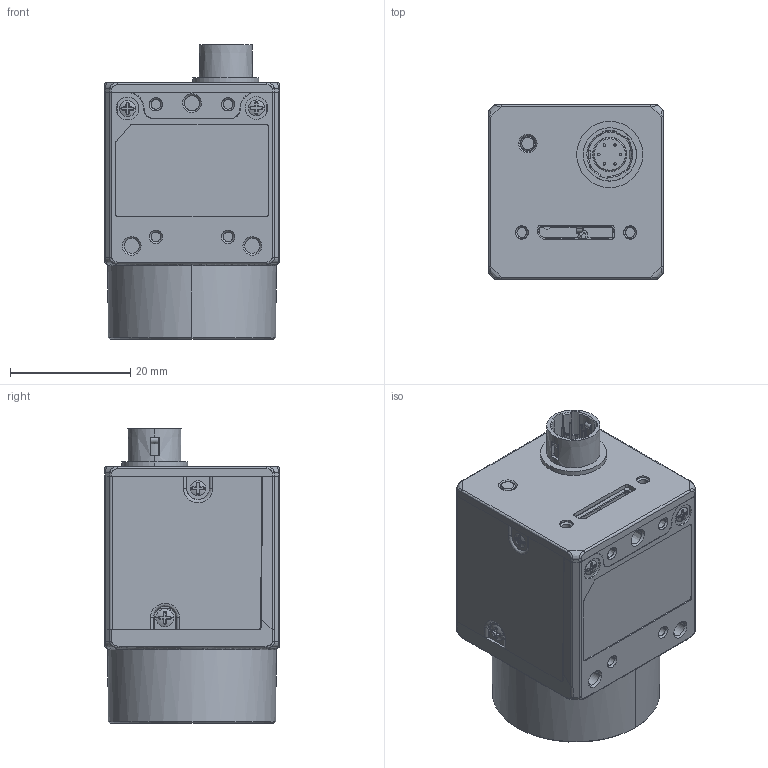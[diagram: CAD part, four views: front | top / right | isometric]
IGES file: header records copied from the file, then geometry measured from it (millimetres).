
Start section:  PTC IGES file: MV-CA020-10UMUC.igs
Global section: file name: MV-CA020-10UMUC.igs; native system: Creo Parametric by PTC Inc.; preprocessor: 2017260; author: wangyijun6; organization: Unknown; date: 20200311.135103; units: millimetre
Bounding box: 29.03 x 29 x 48.91 mm (x, y, z)
Volume: 26370.3 mm3; surface area: 9138.8 mm2
Topology: 1 solids, 8 shells, 1508 faces, 4212 edges, 2717 vertices
Faces by surface type: bspline 772, revolution 720, extrusion 16
